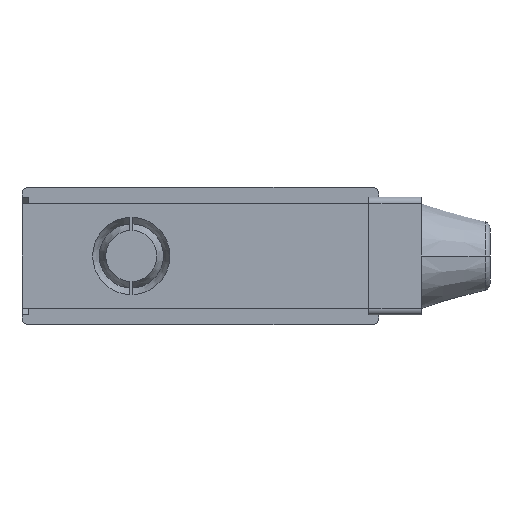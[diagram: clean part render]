
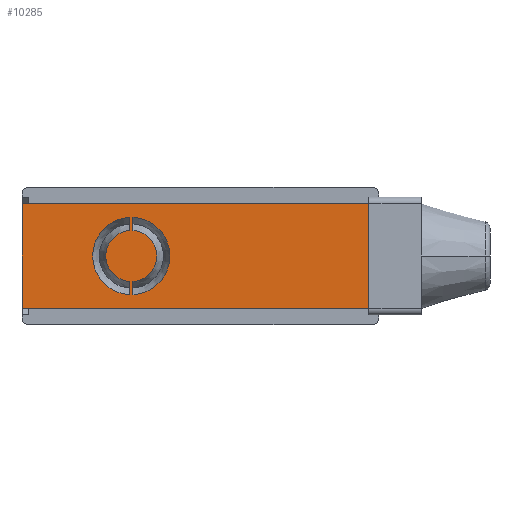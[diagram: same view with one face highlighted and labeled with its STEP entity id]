
A CAD part, front view. The second image highlights one B-rep face of the part: STEP entity #10285.
In plain terms, the highlighted planar face has unit normal (0, -1, 0).
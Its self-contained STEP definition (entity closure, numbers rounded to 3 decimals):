
#287 = EDGE_CURVE ( 'NONE', #4533, #4573, #5909, .T. ) ;
#387 = EDGE_CURVE ( 'NONE', #4528, #4576, #5954, .T. ) ;
#1210 = EDGE_CURVE ( 'NONE', #4573, #4576, #6098, .T. ) ;
#1364 = CARTESIAN_POINT ( 'NONE',  ( -10.55, -19.6, 0. ) ) ;
#1368 = DIRECTION ( 'NONE',  ( 0., -1., 0. ) ) ;
#1369 = DIRECTION ( 'NONE',  ( 0., 0., -1. ) ) ;
#1377 = CARTESIAN_POINT ( 'NONE',  ( -10.55, -19.6, 0. ) ) ;
#1378 = DIRECTION ( 'NONE',  ( 0., -1., 0. ) ) ;
#1379 = DIRECTION ( 'NONE',  ( 0., 0., -1. ) ) ;
#1463 = EDGE_CURVE ( 'NONE', #4520, #4521, #10552, .T. ) ;
#1470 = EDGE_CURVE ( 'NONE', #4533, #4528, #6181, .T. ) ;
#1471 = EDGE_CURVE ( 'NONE', #4516, #4518, #10481, .T. ) ;
#1784 = LINE ( 'NONE', #1785, #11141 ) ;
#1785 = CARTESIAN_POINT ( 'NONE',  ( -10.8, -19.6, -5.9 ) ) ;
#1786 = DIRECTION ( 'NONE',  ( 0., 0., -1. ) ) ;
#1787 = LINE ( 'NONE', #1788, #11142 ) ;
#1788 = CARTESIAN_POINT ( 'NONE',  ( -10.8, -19.6, -5.9 ) ) ;
#1789 = DIRECTION ( 'NONE',  ( 0., 0., -1. ) ) ;
#1790 = LINE ( 'NONE', #1791, #11143 ) ;
#1791 = CARTESIAN_POINT ( 'NONE',  ( -10.3, -19.6, -5.9 ) ) ;
#1792 = DIRECTION ( 'NONE',  ( 0., 0., 1. ) ) ;
#1806 = LINE ( 'NONE', #1807, #11144 ) ;
#1807 = CARTESIAN_POINT ( 'NONE',  ( -10.3, -19.6, -5.9 ) ) ;
#1808 = DIRECTION ( 'NONE',  ( 0., 0., 1. ) ) ;
#1913 = CIRCLE ( 'NONE', #11044, 3.9 ) ;
#1914 = CIRCLE ( 'NONE', #11048, 5.9 ) ;
#2175 = VECTOR ( 'NONE', #5911, 1000. ) ;
#2192 = VECTOR ( 'NONE', #5956, 1000. ) ;
#2213 = AXIS2_PLACEMENT_3D ( 'NONE', #6155, #6156, #6157 ) ;
#2240 = VECTOR ( 'NONE', #6100, 1000. ) ;
#2262 = AXIS2_PLACEMENT_3D ( 'NONE', #6180, #6184, #6185 ) ;
#2263 = VECTOR ( 'NONE', #6183, 1000. ) ;
#2824 = FACE_BOUND ( 'NONE', #4238, .T. ) ;
#2827 = FACE_BOUND ( 'NONE', #4239, .T. ) ;
#2829 = FACE_OUTER_BOUND ( 'NONE', #4240, .T. ) ;
#2831 = AXIS2_PLACEMENT_3D ( 'NONE', #9374, #9375, #9376 ) ;
#2922 = CARTESIAN_POINT ( 'NONE',  ( -10.3, -19.6, -5.895 ) ) ;
#2924 = CARTESIAN_POINT ( 'NONE',  ( -10.3, -19.6, 5.895 ) ) ;
#2926 = CARTESIAN_POINT ( 'NONE',  ( -10.3, -19.6, -3.892 ) ) ;
#2927 = CARTESIAN_POINT ( 'NONE',  ( -10.3, -19.6, 3.892 ) ) ;
#2934 = CARTESIAN_POINT ( 'NONE',  ( 27.25, -19.6, -7.95 ) ) ;
#2939 = CARTESIAN_POINT ( 'NONE',  ( 27.25, -19.6, 7.95 ) ) ;
#2979 = CARTESIAN_POINT ( 'NONE',  ( -27.25, -19.6, 7.95 ) ) ;
#2982 = CARTESIAN_POINT ( 'NONE',  ( -27.25, -19.6, -7.95 ) ) ;
#3031 = CARTESIAN_POINT ( 'NONE',  ( -10.8, -19.6, -5.895 ) ) ;
#3033 = CARTESIAN_POINT ( 'NONE',  ( -10.8, -19.6, 5.895 ) ) ;
#3034 = CARTESIAN_POINT ( 'NONE',  ( -10.8, -19.6, -3.892 ) ) ;
#3035 = CARTESIAN_POINT ( 'NONE',  ( -10.8, -19.6, 3.892 ) ) ;
#4238 = EDGE_LOOP ( 'NONE', ( #8211, #8212, #8210, #8214 ) ) ;
#4239 = EDGE_LOOP ( 'NONE', ( #8215, #8216, #8213, #8218 ) ) ;
#4240 = EDGE_LOOP ( 'NONE', ( #8219, #8220, #8221, #8217 ) ) ;
#4516 = VERTEX_POINT ( 'NONE', #2922 ) ;
#4518 = VERTEX_POINT ( 'NONE', #2924 ) ;
#4520 = VERTEX_POINT ( 'NONE', #2926 ) ;
#4521 = VERTEX_POINT ( 'NONE', #2927 ) ;
#4528 = VERTEX_POINT ( 'NONE', #2934 ) ;
#4533 = VERTEX_POINT ( 'NONE', #2939 ) ;
#4573 = VERTEX_POINT ( 'NONE', #2979 ) ;
#4576 = VERTEX_POINT ( 'NONE', #2982 ) ;
#4625 = VERTEX_POINT ( 'NONE', #3031 ) ;
#4627 = VERTEX_POINT ( 'NONE', #3033 ) ;
#4628 = VERTEX_POINT ( 'NONE', #3034 ) ;
#4629 = VERTEX_POINT ( 'NONE', #3035 ) ;
#5909 = LINE ( 'NONE', #5910, #2175 ) ;
#5910 = CARTESIAN_POINT ( 'NONE',  ( 27.25, -19.6, 7.95 ) ) ;
#5911 = DIRECTION ( 'NONE',  ( -1., 0., 0. ) ) ;
#5954 = LINE ( 'NONE', #5955, #2192 ) ;
#5955 = CARTESIAN_POINT ( 'NONE',  ( 27.25, -19.6, -7.95 ) ) ;
#5956 = DIRECTION ( 'NONE',  ( -1., 0., 0. ) ) ;
#6098 = LINE ( 'NONE', #6099, #2240 ) ;
#6099 = CARTESIAN_POINT ( 'NONE',  ( -27.25, -19.6, 7.95 ) ) ;
#6100 = DIRECTION ( 'NONE',  ( 0., 0., -1. ) ) ;
#6155 = CARTESIAN_POINT ( 'NONE',  ( -10.55, -19.6, 0. ) ) ;
#6156 = DIRECTION ( 'NONE',  ( 0., -1., 0. ) ) ;
#6157 = DIRECTION ( 'NONE',  ( 0., 0., -1. ) ) ;
#6180 = CARTESIAN_POINT ( 'NONE',  ( -10.55, -19.6, 0. ) ) ;
#6181 = LINE ( 'NONE', #6182, #2263 ) ;
#6182 = CARTESIAN_POINT ( 'NONE',  ( 27.25, -19.6, 7.95 ) ) ;
#6183 = DIRECTION ( 'NONE',  ( 0., 0., -1. ) ) ;
#6184 = DIRECTION ( 'NONE',  ( 0., -1., 0. ) ) ;
#6185 = DIRECTION ( 'NONE',  ( 0., 0., -1. ) ) ;
#8210 = ORIENTED_EDGE ( 'NONE', *, *, #11325, .T. ) ;
#8211 = ORIENTED_EDGE ( 'NONE', *, *, #11327, .T. ) ;
#8212 = ORIENTED_EDGE ( 'NONE', *, *, #1471, .F. ) ;
#8213 = ORIENTED_EDGE ( 'NONE', *, *, #11323, .T. ) ;
#8214 = ORIENTED_EDGE ( 'NONE', *, *, #1463, .T. ) ;
#8215 = ORIENTED_EDGE ( 'NONE', *, *, #11324, .T. ) ;
#8216 = ORIENTED_EDGE ( 'NONE', *, *, #11221, .F. ) ;
#8217 = ORIENTED_EDGE ( 'NONE', *, *, #287, .T. ) ;
#8218 = ORIENTED_EDGE ( 'NONE', *, *, #11219, .T. ) ;
#8219 = ORIENTED_EDGE ( 'NONE', *, *, #1210, .T. ) ;
#8220 = ORIENTED_EDGE ( 'NONE', *, *, #387, .F. ) ;
#8221 = ORIENTED_EDGE ( 'NONE', *, *, #1470, .F. ) ;
#9373 = PLANE ( 'NONE',  #2831 ) ;
#9374 = CARTESIAN_POINT ( 'NONE',  ( 27.25, -19.6, 7.95 ) ) ;
#9375 = DIRECTION ( 'NONE',  ( 0., 1., 0. ) ) ;
#9376 = DIRECTION ( 'NONE',  ( 0., 0., 1. ) ) ;
#10285 = ADVANCED_FACE ( 'NONE', ( #2824, #2827, #2829 ), #9373, .F. ) ;
#10481 = CIRCLE ( 'NONE', #2262, 5.9 ) ;
#10552 = CIRCLE ( 'NONE', #2213, 3.9 ) ;
#11044 = AXIS2_PLACEMENT_3D ( 'NONE', #1364, #1368, #1369 ) ;
#11048 = AXIS2_PLACEMENT_3D ( 'NONE', #1377, #1378, #1379 ) ;
#11141 = VECTOR ( 'NONE', #1786, 1000. ) ;
#11142 = VECTOR ( 'NONE', #1789, 1000. ) ;
#11143 = VECTOR ( 'NONE', #1792, 1000. ) ;
#11144 = VECTOR ( 'NONE', #1808, 1000. ) ;
#11219 = EDGE_CURVE ( 'NONE', #4629, #4628, #1913, .T. ) ;
#11221 = EDGE_CURVE ( 'NONE', #4627, #4625, #1914, .T. ) ;
#11323 = EDGE_CURVE ( 'NONE', #4627, #4629, #1784, .T. ) ;
#11324 = EDGE_CURVE ( 'NONE', #4628, #4625, #1787, .T. ) ;
#11325 = EDGE_CURVE ( 'NONE', #4516, #4520, #1790, .T. ) ;
#11327 = EDGE_CURVE ( 'NONE', #4521, #4518, #1806, .T. ) ;
